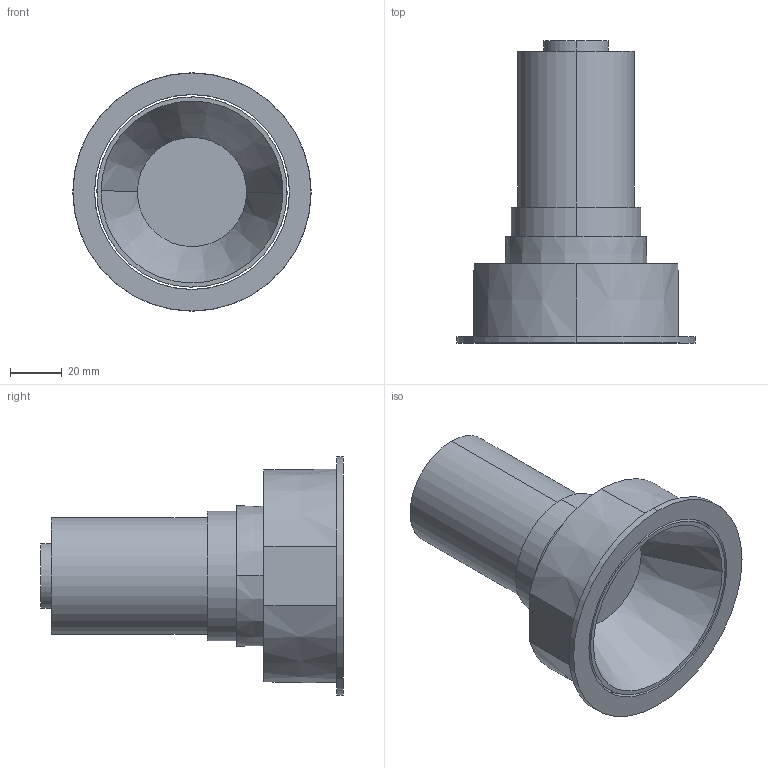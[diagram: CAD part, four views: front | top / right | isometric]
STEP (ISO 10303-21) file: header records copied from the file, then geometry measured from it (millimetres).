
FILE_DESCRIPTION (( 'STEP AP214' ), '1' );
FILE_NAME ('RINGO TILT 1.STEP', '2017-08-22T12:07:53', ( 'Ofitecnic3' ), ( 'Microsoft' ), 'SwSTEP 2.0', 'SolidWorks 2016', '' );
FILE_SCHEMA (( 'AUTOMOTIVE_DESIGN' ));
Length unit declared in the file: millimetre
Products named in the file (4): Exterior Ringo-BIM_01; MODULOS VS-BIM_10W; Interior Ringo-BIM_ringO_1; RINGO TILT 1
Assembly tree (3 placements, depth 2):
  RINGO TILT 1
    Exterior Ringo-BIM_01
    Interior Ringo-BIM_ringO_1
    MODULOS VS-BIM_10W
Bounding box: 91.69 x 116.3 x 91.69 mm (x, y, z)
Volume: 182009.9 mm3; surface area: 64942.2 mm2
Topology: 3 solids, 3 shells, 81 faces, 193 edges, 126 vertices
Faces by surface type: plane 42, cone 24, bspline 9, cylinder 6
Entity records: 3476 total; most frequent: CARTESIAN_POINT 1343, ORIENTED_EDGE 386, DIRECTION 366, EDGE_CURVE 193, AXIS2_PLACEMENT_3D 134, VERTEX_POINT 126, VECTOR 98, LINE 98
